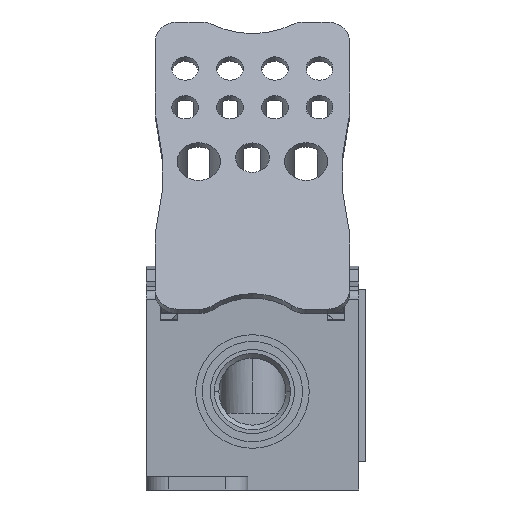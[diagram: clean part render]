
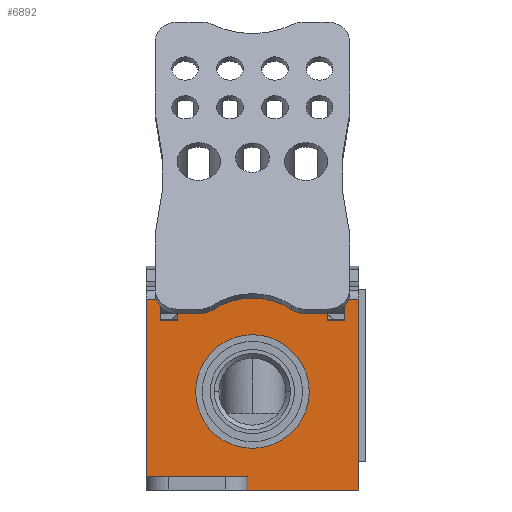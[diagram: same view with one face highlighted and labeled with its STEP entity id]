
A CAD part, left-side view. The second image highlights one B-rep face of the part: STEP entity #6892.
In plain terms, the highlighted planar face has unit normal (-1, 0, 0).
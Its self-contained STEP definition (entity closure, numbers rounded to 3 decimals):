
#197 = CARTESIAN_POINT ( 'NONE',  ( -37., 0., 22. ) ) ;
#273 = CIRCLE ( 'NONE', #16083, 12.7 ) ;
#467 = LINE ( 'NONE', #1103, #468 ) ;
#468 = VECTOR ( 'NONE', #1104, 1000. ) ;
#477 = LINE ( 'NONE', #1113, #478 ) ;
#478 = VECTOR ( 'NONE', #1114, 1000. ) ;
#479 = LINE ( 'NONE', #1125, #490 ) ;
#480 = VECTOR ( 'NONE', #1126, 1000. ) ;
#481 = LINE ( 'NONE', #1131, #494 ) ;
#485 = LINE ( 'NONE', #1129, #492 ) ;
#486 = LINE ( 'NONE', #1116, #480 ) ;
#487 = CIRCLE ( 'NONE', #16108, 82.65 ) ;
#488 = LINE ( 'NONE', #1127, #489 ) ;
#489 = VECTOR ( 'NONE', #1128, 1000. ) ;
#490 = VECTOR ( 'NONE', #1130, 1000. ) ;
#491 = LINE ( 'NONE', #1133, #495 ) ;
#492 = VECTOR ( 'NONE', #1132, 1000. ) ;
#493 = LINE ( 'NONE', #1135, #497 ) ;
#494 = VECTOR ( 'NONE', #1134, 1000. ) ;
#495 = VECTOR ( 'NONE', #1136, 1000. ) ;
#497 = VECTOR ( 'NONE', #1137, 1000. ) ;
#499 = LINE ( 'NONE', #1138, #500 ) ;
#500 = VECTOR ( 'NONE', #1139, 1000. ) ;
#501 = LINE ( 'NONE', #1140, #502 ) ;
#502 = VECTOR ( 'NONE', #1141, 1000. ) ;
#503 = LINE ( 'NONE', #1142, #504 ) ;
#504 = VECTOR ( 'NONE', #1143, 1000. ) ;
#505 = LINE ( 'NONE', #1144, #506 ) ;
#506 = VECTOR ( 'NONE', #1145, 1000. ) ;
#512 = CIRCLE ( 'NONE', #16116, 12.7 ) ;
#797 = DIRECTION ( 'NONE',  ( 0., 1., 0. ) ) ;
#1103 = CARTESIAN_POINT ( 'NONE',  ( -37., -20.65, 44.6 ) ) ;
#1104 = DIRECTION ( 'NONE',  ( 0., 0., 1. ) ) ;
#1112 = CARTESIAN_POINT ( 'NONE',  ( -37., 0., -36.65 ) ) ;
#1113 = CARTESIAN_POINT ( 'NONE',  ( -37., -16.85, 37.8 ) ) ;
#1114 = DIRECTION ( 'NONE',  ( 0., 0., -1. ) ) ;
#1116 = CARTESIAN_POINT ( 'NONE',  ( -37., 23.75, 42.6 ) ) ;
#1123 = DIRECTION ( 'NONE',  ( -1., 0., 0. ) ) ;
#1124 = DIRECTION ( 'NONE',  ( 0., 1., 0. ) ) ;
#1125 = CARTESIAN_POINT ( 'NONE',  ( -37., -20.65, 37.8 ) ) ;
#1126 = DIRECTION ( 'NONE',  ( 0., 1., 0. ) ) ;
#1127 = CARTESIAN_POINT ( 'NONE',  ( -37., -23.75, 50. ) ) ;
#1128 = DIRECTION ( 'NONE',  ( 0., 0., -1. ) ) ;
#1129 = CARTESIAN_POINT ( 'NONE',  ( -37., 16.85, 37.8 ) ) ;
#1130 = DIRECTION ( 'NONE',  ( 0., -1., 0. ) ) ;
#1131 = CARTESIAN_POINT ( 'NONE',  ( -37., 20.65, 37.8 ) ) ;
#1132 = DIRECTION ( 'NONE',  ( 0., 0., 1. ) ) ;
#1133 = CARTESIAN_POINT ( 'NONE',  ( -37., 20.65, 44.6 ) ) ;
#1134 = DIRECTION ( 'NONE',  ( 0., -1., 0. ) ) ;
#1135 = CARTESIAN_POINT ( 'NONE',  ( -37., 23.75, 42.6 ) ) ;
#1136 = DIRECTION ( 'NONE',  ( 0., 0., -1. ) ) ;
#1137 = DIRECTION ( 'NONE',  ( 0., 1., 0. ) ) ;
#1138 = CARTESIAN_POINT ( 'NONE',  ( -37., 23.75, 50. ) ) ;
#1139 = DIRECTION ( 'NONE',  ( 0., 0., -1. ) ) ;
#1140 = CARTESIAN_POINT ( 'NONE',  ( -37., 23.75, 3. ) ) ;
#1141 = DIRECTION ( 'NONE',  ( 0., -1., 0. ) ) ;
#1142 = CARTESIAN_POINT ( 'NONE',  ( -37., 1.05, 3. ) ) ;
#1143 = DIRECTION ( 'NONE',  ( 0., 0., -1. ) ) ;
#1144 = CARTESIAN_POINT ( 'NONE',  ( -37., 23.75, 0. ) ) ;
#1145 = DIRECTION ( 'NONE',  ( 0., -1., 0. ) ) ;
#1149 = CARTESIAN_POINT ( 'NONE',  ( -37., 0., 22. ) ) ;
#1150 = DIRECTION ( 'NONE',  ( -1., 0., 0. ) ) ;
#1151 = DIRECTION ( 'NONE',  ( 0., 1., 0. ) ) ;
#5414 = VERTEX_POINT ( 'NONE', #12633 ) ;
#5749 = VERTEX_POINT ( 'NONE', #12888 ) ;
#5750 = VERTEX_POINT ( 'NONE', #12889 ) ;
#5751 = VERTEX_POINT ( 'NONE', #12890 ) ;
#5860 = VERTEX_POINT ( 'NONE', #12999 ) ;
#5861 = VERTEX_POINT ( 'NONE', #13000 ) ;
#5862 = VERTEX_POINT ( 'NONE', #13001 ) ;
#5863 = VERTEX_POINT ( 'NONE', #13002 ) ;
#5864 = VERTEX_POINT ( 'NONE', #13003 ) ;
#5865 = VERTEX_POINT ( 'NONE', #13004 ) ;
#5866 = VERTEX_POINT ( 'NONE', #13005 ) ;
#5867 = VERTEX_POINT ( 'NONE', #13006 ) ;
#5868 = VERTEX_POINT ( 'NONE', #13007 ) ;
#5869 = VERTEX_POINT ( 'NONE', #13008 ) ;
#5870 = VERTEX_POINT ( 'NONE', #13009 ) ;
#6360 = VERTEX_POINT ( 'NONE', #13499 ) ;
#6892 = ADVANCED_FACE ( 'NONE', ( #11895, #11900 ), #14172, .F. ) ;
#7782 = EDGE_LOOP ( 'NONE', ( #8372, #8373, #8374, #8375, #8376, #8377, #8378, #8379, #8380, #8381, #8382, #8383, #8384, #8385 ) ) ;
#7785 = EDGE_LOOP ( 'NONE', ( #8386, #8387 ) ) ;
#8372 = ORIENTED_EDGE ( 'NONE', *, *, #8982, .F. ) ;
#8373 = ORIENTED_EDGE ( 'NONE', *, *, #8981, .T. ) ;
#8374 = ORIENTED_EDGE ( 'NONE', *, *, #8971, .F. ) ;
#8375 = ORIENTED_EDGE ( 'NONE', *, *, #8983, .F. ) ;
#8376 = ORIENTED_EDGE ( 'NONE', *, *, #8976, .F. ) ;
#8377 = ORIENTED_EDGE ( 'NONE', *, *, #8980, .T. ) ;
#8378 = ORIENTED_EDGE ( 'NONE', *, *, #8984, .F. ) ;
#8379 = ORIENTED_EDGE ( 'NONE', *, *, #8985, .F. ) ;
#8380 = ORIENTED_EDGE ( 'NONE', *, *, #8986, .F. ) ;
#8381 = ORIENTED_EDGE ( 'NONE', *, *, #8987, .T. ) ;
#8382 = ORIENTED_EDGE ( 'NONE', *, *, #8988, .T. ) ;
#8383 = ORIENTED_EDGE ( 'NONE', *, *, #8989, .T. ) ;
#8384 = ORIENTED_EDGE ( 'NONE', *, *, #8990, .T. ) ;
#8385 = ORIENTED_EDGE ( 'NONE', *, *, #8991, .T. ) ;
#8386 = ORIENTED_EDGE ( 'NONE', *, *, #8993, .F. ) ;
#8387 = ORIENTED_EDGE ( 'NONE', *, *, #8845, .F. ) ;
#8845 = EDGE_CURVE ( 'NONE', #5414, #6360, #273, .T. ) ;
#8971 = EDGE_CURVE ( 'NONE', #5863, #5862, #467, .T. ) ;
#8976 = EDGE_CURVE ( 'NONE', #5865, #5864, #477, .T. ) ;
#8980 = EDGE_CURVE ( 'NONE', #5865, #5866, #487, .T. ) ;
#8981 = EDGE_CURVE ( 'NONE', #5860, #5862, #486, .T. ) ;
#8982 = EDGE_CURVE ( 'NONE', #5860, #5861, #488, .T. ) ;
#8983 = EDGE_CURVE ( 'NONE', #5864, #5863, #479, .T. ) ;
#8984 = EDGE_CURVE ( 'NONE', #5867, #5866, #485, .T. ) ;
#8985 = EDGE_CURVE ( 'NONE', #5868, #5867, #481, .T. ) ;
#8986 = EDGE_CURVE ( 'NONE', #5869, #5868, #491, .T. ) ;
#8987 = EDGE_CURVE ( 'NONE', #5869, #5870, #493, .T. ) ;
#8988 = EDGE_CURVE ( 'NONE', #5870, #5749, #499, .T. ) ;
#8989 = EDGE_CURVE ( 'NONE', #5749, #5750, #501, .T. ) ;
#8990 = EDGE_CURVE ( 'NONE', #5750, #5751, #503, .T. ) ;
#8991 = EDGE_CURVE ( 'NONE', #5751, #5861, #505, .T. ) ;
#8993 = EDGE_CURVE ( 'NONE', #6360, #5414, #512, .T. ) ;
#11895 = FACE_OUTER_BOUND ( 'NONE', #7782, .T. ) ;
#11900 = FACE_BOUND ( 'NONE', #7785, .T. ) ;
#12278 = AXIS2_PLACEMENT_3D ( 'NONE', #14173, #14178, #14179 ) ;
#12633 = CARTESIAN_POINT ( 'NONE',  ( -37., -12.7, 22. ) ) ;
#12888 = CARTESIAN_POINT ( 'NONE',  ( -37., 23.75, 3. ) ) ;
#12889 = CARTESIAN_POINT ( 'NONE',  ( -37., 1.05, 3. ) ) ;
#12890 = CARTESIAN_POINT ( 'NONE',  ( -37., 1.05, 0. ) ) ;
#12999 = CARTESIAN_POINT ( 'NONE',  ( -37., -23.75, 42.6 ) ) ;
#13000 = CARTESIAN_POINT ( 'NONE',  ( -37., -23.75, 0. ) ) ;
#13001 = CARTESIAN_POINT ( 'NONE',  ( -37., -20.65, 42.6 ) ) ;
#13002 = CARTESIAN_POINT ( 'NONE',  ( -37., -20.65, 37.8 ) ) ;
#13003 = CARTESIAN_POINT ( 'NONE',  ( -37., -16.85, 37.8 ) ) ;
#13004 = CARTESIAN_POINT ( 'NONE',  ( -37., -16.85, 44.264 ) ) ;
#13005 = CARTESIAN_POINT ( 'NONE',  ( -37., 16.85, 44.264 ) ) ;
#13006 = CARTESIAN_POINT ( 'NONE',  ( -37., 16.85, 37.8 ) ) ;
#13007 = CARTESIAN_POINT ( 'NONE',  ( -37., 20.65, 37.8 ) ) ;
#13008 = CARTESIAN_POINT ( 'NONE',  ( -37., 20.65, 42.6 ) ) ;
#13009 = CARTESIAN_POINT ( 'NONE',  ( -37., 23.75, 42.6 ) ) ;
#13499 = CARTESIAN_POINT ( 'NONE',  ( -37., 12.7, 22. ) ) ;
#14172 = PLANE ( 'NONE',  #12278 ) ;
#14173 = CARTESIAN_POINT ( 'NONE',  ( -37., 23.75, 50. ) ) ;
#14178 = DIRECTION ( 'NONE',  ( 1., 0., 0. ) ) ;
#14179 = DIRECTION ( 'NONE',  ( 0., 1., 0. ) ) ;
#15352 = DIRECTION ( 'NONE',  ( -1., 0., 0. ) ) ;
#16083 = AXIS2_PLACEMENT_3D ( 'NONE', #197, #15352, #797 ) ;
#16108 = AXIS2_PLACEMENT_3D ( 'NONE', #1112, #1123, #1124 ) ;
#16116 = AXIS2_PLACEMENT_3D ( 'NONE', #1149, #1150, #1151 ) ;
